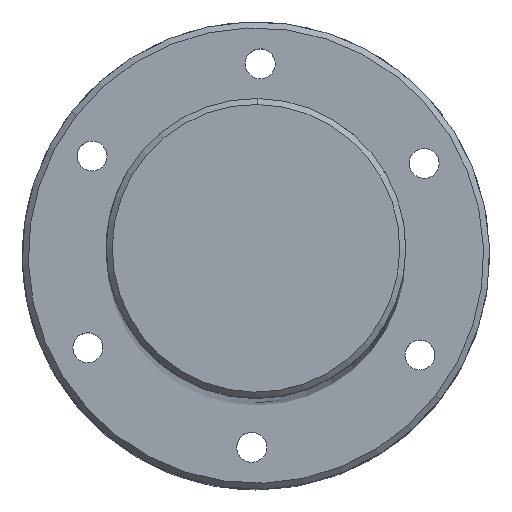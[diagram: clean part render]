
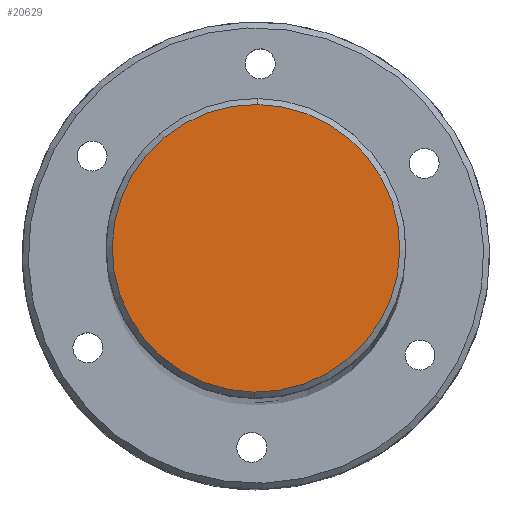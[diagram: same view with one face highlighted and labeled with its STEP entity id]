
A CAD part, top view. The second image highlights one B-rep face of the part: STEP entity #20629.
In plain terms, the highlighted planar face has unit normal (0, 0, 1) as drawn and (-1, 0, 0) by its records, which use the part's own axes.
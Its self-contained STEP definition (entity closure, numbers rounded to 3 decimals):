
#497 = AXIS2_PLACEMENT_3D ( 'NONE', #14867, #2986, #6135 ) ;
#861 = CARTESIAN_POINT ( 'NONE',  ( 0., 0., 0. ) ) ;
#1215 = CIRCLE ( 'NONE', #497, 24. ) ;
#2155 = CARTESIAN_POINT ( 'NONE',  ( 0., 0., 0. ) ) ;
#2986 = DIRECTION ( 'NONE',  ( -1., 0., 0. ) ) ;
#3170 = ORIENTED_EDGE ( 'NONE', *, *, #9334, .T. ) ;
#3504 = CARTESIAN_POINT ( 'NONE',  ( 0., 0., -24. ) ) ;
#4768 = ORIENTED_EDGE ( 'NONE', *, *, #14057, .T. ) ;
#5733 = DIRECTION ( 'NONE',  ( 0., 0., -1. ) ) ;
#6040 = CIRCLE ( 'NONE', #7371, 24. ) ;
#6135 = DIRECTION ( 'NONE',  ( 0., 0., -1. ) ) ;
#7371 = AXIS2_PLACEMENT_3D ( 'NONE', #2155, #12186, #19018 ) ;
#8655 = CARTESIAN_POINT ( 'NONE',  ( 0., 0., 24. ) ) ;
#9334 = EDGE_CURVE ( 'NONE', #21087, #21007, #1215, .T. ) ;
#10747 = EDGE_LOOP ( 'NONE', ( #3170, #4768 ) ) ;
#12186 = DIRECTION ( 'NONE',  ( -1., 0., 0. ) ) ;
#12637 = DIRECTION ( 'NONE',  ( 1., 0., 0. ) ) ;
#12780 = PLANE ( 'NONE',  #18109 ) ;
#14057 = EDGE_CURVE ( 'NONE', #21007, #21087, #6040, .T. ) ;
#14867 = CARTESIAN_POINT ( 'NONE',  ( 0., 0., 0. ) ) ;
#16806 = FACE_OUTER_BOUND ( 'NONE', #10747, .T. ) ;
#18109 = AXIS2_PLACEMENT_3D ( 'NONE', #861, #12637, #5733 ) ;
#19018 = DIRECTION ( 'NONE',  ( 0., 0., -1. ) ) ;
#20629 = ADVANCED_FACE ( 'NONE', ( #16806 ), #12780, .F. ) ;
#21007 = VERTEX_POINT ( 'NONE', #8655 ) ;
#21087 = VERTEX_POINT ( 'NONE', #3504 ) ;
